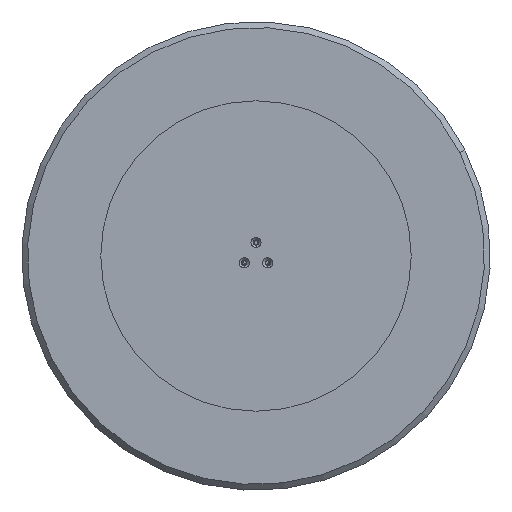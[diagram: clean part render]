
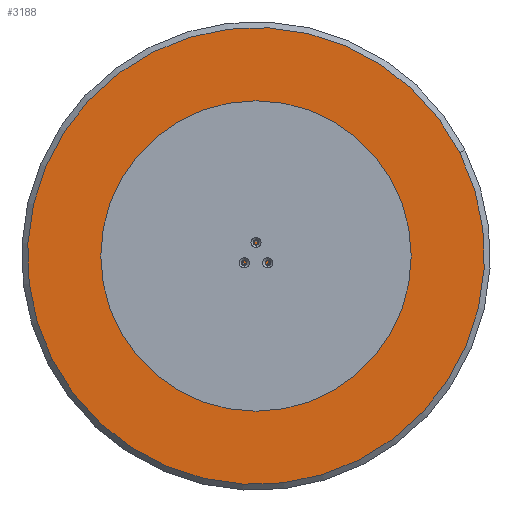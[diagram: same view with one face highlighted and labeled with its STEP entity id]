
A CAD part, front view. The second image highlights one B-rep face of the part: STEP entity #3188.
In plain terms, the highlighted planar face has unit normal (0, -1, 0).
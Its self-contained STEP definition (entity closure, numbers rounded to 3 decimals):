
#93 = ORIENTED_EDGE ( 'NONE', *, *, #336, .T. ) ;
#117 = CARTESIAN_POINT ( 'NONE',  ( -95., 0., -54.848 ) ) ;
#270 = EDGE_CURVE ( 'NONE', #1635, #1197, #3641, .T. ) ;
#302 = CIRCLE ( 'NONE', #2606, 3.4 ) ;
#325 = VERTEX_POINT ( 'NONE', #1445 ) ;
#336 = EDGE_CURVE ( 'NONE', #3127, #2603, #3576, .T. ) ;
#348 = EDGE_CURVE ( 'NONE', #2949, #3515, #1418, .T. ) ;
#417 = CARTESIAN_POINT ( 'NONE',  ( 0., 0., 0. ) ) ;
#440 = CARTESIAN_POINT ( 'NONE',  ( 0., 0., 109.697 ) ) ;
#470 = CIRCLE ( 'NONE', #676, 3.4 ) ;
#644 = CARTESIAN_POINT ( 'NONE',  ( 0., 0., 3.4 ) ) ;
#659 = CARTESIAN_POINT ( 'NONE',  ( 0., 0., 113.097 ) ) ;
#676 = AXIS2_PLACEMENT_3D ( 'NONE', #117, #750, #3272 ) ;
#731 = EDGE_CURVE ( 'NONE', #1197, #1635, #2238, .T. ) ;
#750 = DIRECTION ( 'NONE',  ( 0., -1., 0. ) ) ;
#762 = CIRCLE ( 'NONE', #2133, 3.4 ) ;
#876 = EDGE_LOOP ( 'NONE', ( #3130, #3092 ) ) ;
#887 = CARTESIAN_POINT ( 'NONE',  ( 0., 0., 390. ) ) ;
#1075 = PLANE ( 'NONE',  #3573 ) ;
#1079 = DIRECTION ( 'NONE',  ( 0., -1., 0. ) ) ;
#1100 = DIRECTION ( 'NONE',  ( 0., 0., -1. ) ) ;
#1140 = DIRECTION ( 'NONE',  ( 0., 0., -1. ) ) ;
#1146 = CARTESIAN_POINT ( 'NONE',  ( 95., 0., -58.248 ) ) ;
#1160 = DIRECTION ( 'NONE',  ( 0., -1., 0. ) ) ;
#1197 = VERTEX_POINT ( 'NONE', #644 ) ;
#1227 = DIRECTION ( 'NONE',  ( 0., 0., -1. ) ) ;
#1238 = CARTESIAN_POINT ( 'NONE',  ( 0., 0., 109.697 ) ) ;
#1284 = ORIENTED_EDGE ( 'NONE', *, *, #731, .F. ) ;
#1414 = EDGE_CURVE ( 'NONE', #3515, #2949, #4074, .T. ) ;
#1418 = CIRCLE ( 'NONE', #2058, 3.4 ) ;
#1420 = AXIS2_PLACEMENT_3D ( 'NONE', #440, #1422, #2026 ) ;
#1422 = DIRECTION ( 'NONE',  ( 0., -1., 0. ) ) ;
#1445 = CARTESIAN_POINT ( 'NONE',  ( -95., 0., -51.448 ) ) ;
#1453 = ORIENTED_EDGE ( 'NONE', *, *, #348, .F. ) ;
#1503 = CARTESIAN_POINT ( 'NONE',  ( 95., 0., -54.848 ) ) ;
#1529 = EDGE_LOOP ( 'NONE', ( #1650, #93 ) ) ;
#1530 = DIRECTION ( 'NONE',  ( 0., -1., 0. ) ) ;
#1532 = DIRECTION ( 'NONE',  ( 0., -1., 0. ) ) ;
#1635 = VERTEX_POINT ( 'NONE', #3163 ) ;
#1650 = ORIENTED_EDGE ( 'NONE', *, *, #2394, .T. ) ;
#1656 = DIRECTION ( 'NONE',  ( 0., -1., 0. ) ) ;
#1673 = DIRECTION ( 'NONE',  ( 0., 0., -1. ) ) ;
#1693 = CARTESIAN_POINT ( 'NONE',  ( 0., 0., 0. ) ) ;
#1694 = DIRECTION ( 'NONE',  ( 0., 0., -1. ) ) ;
#1712 = FACE_BOUND ( 'NONE', #2333, .T. ) ;
#1715 = CARTESIAN_POINT ( 'NONE',  ( 0., 0., 0. ) ) ;
#1728 = CIRCLE ( 'NONE', #1420, 3.4 ) ;
#1793 = EDGE_CURVE ( 'NONE', #2214, #3039, #1728, .T. ) ;
#1822 = DIRECTION ( 'NONE',  ( 0., 0., -1. ) ) ;
#1846 = CARTESIAN_POINT ( 'NONE',  ( 95., 0., -51.448 ) ) ;
#1866 = CARTESIAN_POINT ( 'NONE',  ( -95., 0., -58.248 ) ) ;
#2026 = DIRECTION ( 'NONE',  ( 0., 0., -1. ) ) ;
#2058 = AXIS2_PLACEMENT_3D ( 'NONE', #2404, #3040, #1100 ) ;
#2120 = DIRECTION ( 'NONE',  ( 0., 0., -1. ) ) ;
#2133 = AXIS2_PLACEMENT_3D ( 'NONE', #1238, #1532, #2120 ) ;
#2214 = VERTEX_POINT ( 'NONE', #3471 ) ;
#2238 = CIRCLE ( 'NONE', #3687, 3.4 ) ;
#2260 = AXIS2_PLACEMENT_3D ( 'NONE', #3978, #1160, #1140 ) ;
#2286 = FACE_BOUND ( 'NONE', #2565, .T. ) ;
#2333 = EDGE_LOOP ( 'NONE', ( #3812, #1453 ) ) ;
#2359 = FACE_OUTER_BOUND ( 'NONE', #1529, .T. ) ;
#2394 = EDGE_CURVE ( 'NONE', #2603, #3127, #3584, .T. ) ;
#2400 = DIRECTION ( 'NONE',  ( 0., -1., 0. ) ) ;
#2404 = CARTESIAN_POINT ( 'NONE',  ( 95., 0., -54.848 ) ) ;
#2511 = CARTESIAN_POINT ( 'NONE',  ( 0., 0., -390. ) ) ;
#2565 = EDGE_LOOP ( 'NONE', ( #3257, #2932 ) ) ;
#2603 = VERTEX_POINT ( 'NONE', #887 ) ;
#2606 = AXIS2_PLACEMENT_3D ( 'NONE', #3089, #1530, #1227 ) ;
#2630 = DIRECTION ( 'NONE',  ( 0., 0., -1. ) ) ;
#2696 = EDGE_CURVE ( 'NONE', #3039, #2214, #762, .T. ) ;
#2918 = FACE_BOUND ( 'NONE', #876, .T. ) ;
#2932 = ORIENTED_EDGE ( 'NONE', *, *, #3552, .F. ) ;
#2949 = VERTEX_POINT ( 'NONE', #1846 ) ;
#2957 = FACE_BOUND ( 'NONE', #3474, .T. ) ;
#2976 = DIRECTION ( 'NONE',  ( 0., -1., 0. ) ) ;
#3031 = VERTEX_POINT ( 'NONE', #1866 ) ;
#3039 = VERTEX_POINT ( 'NONE', #659 ) ;
#3040 = DIRECTION ( 'NONE',  ( 0., -1., 0. ) ) ;
#3089 = CARTESIAN_POINT ( 'NONE',  ( -95., 0., -54.848 ) ) ;
#3092 = ORIENTED_EDGE ( 'NONE', *, *, #2696, .F. ) ;
#3127 = VERTEX_POINT ( 'NONE', #2511 ) ;
#3130 = ORIENTED_EDGE ( 'NONE', *, *, #1793, .F. ) ;
#3163 = CARTESIAN_POINT ( 'NONE',  ( 0., 0., -3.4 ) ) ;
#3188 = ADVANCED_FACE ( 'NONE', ( #2286, #1712, #2918, #2957, #2359 ), #1075, .T. ) ;
#3228 = CARTESIAN_POINT ( 'NONE',  ( 0., 0., 0. ) ) ;
#3257 = ORIENTED_EDGE ( 'NONE', *, *, #3898, .F. ) ;
#3272 = DIRECTION ( 'NONE',  ( 0., 0., -1. ) ) ;
#3314 = AXIS2_PLACEMENT_3D ( 'NONE', #1693, #2976, #2630 ) ;
#3471 = CARTESIAN_POINT ( 'NONE',  ( 0., 0., 106.297 ) ) ;
#3474 = EDGE_LOOP ( 'NONE', ( #4069, #1284 ) ) ;
#3515 = VERTEX_POINT ( 'NONE', #1146 ) ;
#3552 = EDGE_CURVE ( 'NONE', #325, #3031, #302, .T. ) ;
#3573 = AXIS2_PLACEMENT_3D ( 'NONE', #3228, #3616, #1694 ) ;
#3576 = CIRCLE ( 'NONE', #2260, 390. ) ;
#3584 = CIRCLE ( 'NONE', #3314, 390. ) ;
#3600 = DIRECTION ( 'NONE',  ( 0., 0., -1. ) ) ;
#3616 = DIRECTION ( 'NONE',  ( 0., -1., 0. ) ) ;
#3641 = CIRCLE ( 'NONE', #3922, 3.4 ) ;
#3687 = AXIS2_PLACEMENT_3D ( 'NONE', #417, #1656, #1673 ) ;
#3812 = ORIENTED_EDGE ( 'NONE', *, *, #1414, .F. ) ;
#3883 = AXIS2_PLACEMENT_3D ( 'NONE', #1503, #2400, #1822 ) ;
#3898 = EDGE_CURVE ( 'NONE', #3031, #325, #470, .T. ) ;
#3922 = AXIS2_PLACEMENT_3D ( 'NONE', #1715, #1079, #3600 ) ;
#3978 = CARTESIAN_POINT ( 'NONE',  ( 0., 0., 0. ) ) ;
#4069 = ORIENTED_EDGE ( 'NONE', *, *, #270, .F. ) ;
#4074 = CIRCLE ( 'NONE', #3883, 3.4 ) ;
